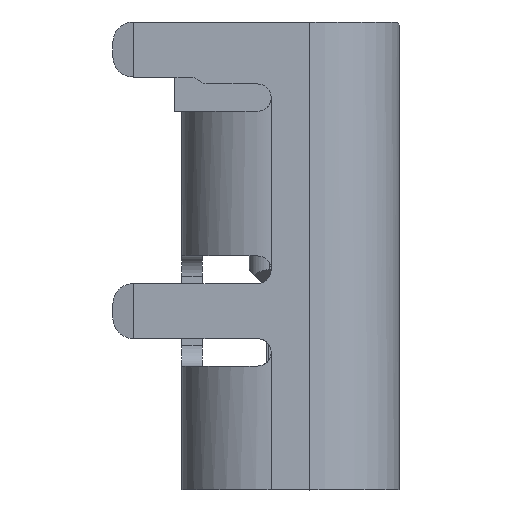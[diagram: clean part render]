
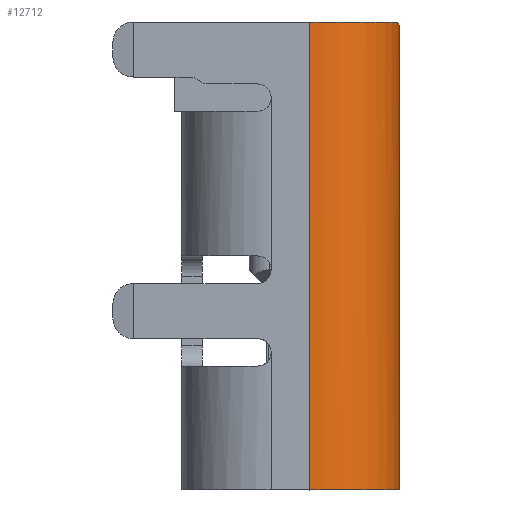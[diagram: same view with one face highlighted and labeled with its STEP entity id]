
A CAD part, left-side view. The second image highlights one B-rep face of the part: STEP entity #12712.
In plain terms, the highlighted cylindrical face has radius 1.3 mm (diameter 2.6 mm), a partial arc.
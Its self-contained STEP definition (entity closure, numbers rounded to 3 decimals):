
#1795=CARTESIAN_POINT('',(-3.17,-0.28,-6.25));
#1796=DIRECTION('',(0.,0.,-1.));
#1797=DIRECTION('',(0.,-1.,0.));
#1798=AXIS2_PLACEMENT_3D('',#1795,#1796,#1797);
#3303=CARTESIAN_POINT('',(-3.17,-0.28,0.55));
#3304=DIRECTION('',(0.,0.,1.));
#3305=DIRECTION('',(-1.,0.,0.));
#3306=AXIS2_PLACEMENT_3D('',#3303,#3304,#3305);
#3353=DIRECTION('',(0.,0.,-1.));
#3354=VECTOR('',#3353,6.8);
#3355=CARTESIAN_POINT('',(-4.47,-0.28,0.55));
#3356=LINE('',#3355,#3354);
#3357=DIRECTION('',(0.,0.,1.));
#3358=VECTOR('',#3357,6.699);
#3359=CARTESIAN_POINT('',(-3.17,-1.58,-6.25));
#3360=LINE('',#3359,#3358);
#3361=CARTESIAN_POINT('',(-3.17,-1.58,0.449));
#3362=CARTESIAN_POINT('',(-3.2,-1.58,
0.472));
#3363=CARTESIAN_POINT('',(-3.262,-1.578,
0.509));
#3364=CARTESIAN_POINT('',(-3.364,-1.567,
0.542));
#3365=CARTESIAN_POINT('',(-3.435,-1.553,0.55));
#3366=CARTESIAN_POINT('',(-3.471,-1.545,0.55));
#7059=CARTESIAN_POINT('',(-3.17,-1.58,0.449));
#7060=VERTEX_POINT('',#7059);
#7061=CARTESIAN_POINT('',(-3.17,-1.58,-6.25));
#7062=VERTEX_POINT('',#7061);
#7611=CARTESIAN_POINT('',(-4.47,-0.28,-6.25));
#7612=VERTEX_POINT('',#7611);
#7613=CARTESIAN_POINT('',(-4.47,-0.28,0.55));
#7614=VERTEX_POINT('',#7613);
#7946=CARTESIAN_POINT('',(-3.471,-1.545,0.55));
#7947=VERTEX_POINT('',#7946);
#12699=CARTESIAN_POINT('',(-3.17,-0.28,-6.25));
#12700=DIRECTION('',(0.,0.,1.));
#12701=DIRECTION('',(1.,0.,0.));
#12702=AXIS2_PLACEMENT_3D('',#12699,#12700,#12701);
#12703=CYLINDRICAL_SURFACE('',#12702,1.3);
#12704=ORIENTED_EDGE('',*,*,#10360,.T.);
#12705=ORIENTED_EDGE('',*,*,#10593,.F.);
#12706=ORIENTED_EDGE('',*,*,#9018,.T.);
#12708=ORIENTED_EDGE('',*,*,#12707,.T.);
#12709=ORIENTED_EDGE('',*,*,#12651,.F.);
#12710=EDGE_LOOP('',(#12704,#12705,#12706,#12708,#12709));
#12711=FACE_OUTER_BOUND('',#12710,.F.);
#1799=CIRCLE('',#1798,1.3);
#3307=CIRCLE('',#3306,1.3);
#3367=B_SPLINE_CURVE_WITH_KNOTS('',3,(#3361,#3362,#3363,#3364,#3365,#3366),
.UNSPECIFIED.,.F.,.F.,(4,1,1,4),(0.,0.333,0.667,1.),
.UNSPECIFIED.);
#9018=EDGE_CURVE('',#7062,#7060,#3360,.T.);
#10360=EDGE_CURVE('',#7614,#7612,#3356,.T.);
#10593=EDGE_CURVE('',#7062,#7612,#1799,.T.);
#12651=EDGE_CURVE('',#7614,#7947,#3307,.T.);
#12707=EDGE_CURVE('',#7060,#7947,#3367,.T.);
#12712=ADVANCED_FACE('',(#12711),#12703,.F.);
